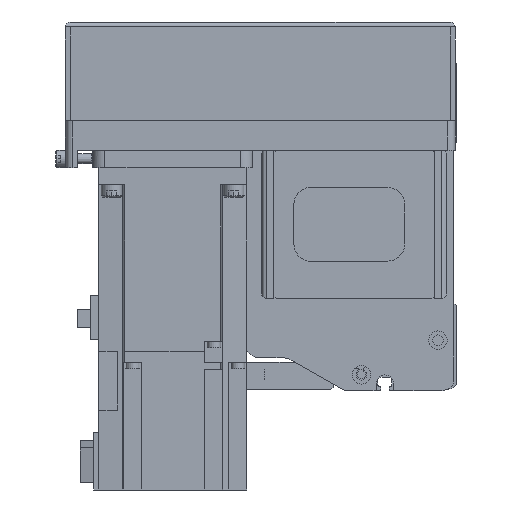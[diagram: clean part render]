
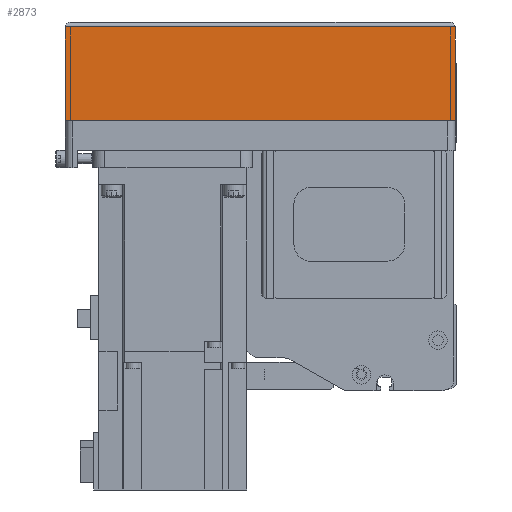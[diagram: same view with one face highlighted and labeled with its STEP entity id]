
A CAD part, left-side view. The second image highlights one B-rep face of the part: STEP entity #2873.
In plain terms, the highlighted planar face has unit normal (-1, 0, 0) as drawn and (0, 1, 0) by its records, which use the part's own axes.
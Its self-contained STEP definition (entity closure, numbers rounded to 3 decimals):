
#2873 = ADVANCED_FACE( '', ( #6179 ), #6180, .T. );
#6179 = FACE_OUTER_BOUND( '', #9745, .T. );
#6180 = PLANE( '', #9746 );
#9745 = EDGE_LOOP( '', ( #17876, #17877, #17878, #17879 ) );
#9746 = AXIS2_PLACEMENT_3D( '', #17880, #17881, #17882 );
#17876 = ORIENTED_EDGE( '', *, *, #21174, .F. );
#17877 = ORIENTED_EDGE( '', *, *, #20936, .F. );
#17878 = ORIENTED_EDGE( '', *, *, #20628, .T. );
#17879 = ORIENTED_EDGE( '', *, *, #21114, .T. );
#17880 = CARTESIAN_POINT( '', ( -158., 39., -50. ) );
#17881 = DIRECTION( '', ( 0., 1., 0. ) );
#17882 = DIRECTION( '', ( 0., 0., 1. ) );
#20628 = EDGE_CURVE( '', #24757, #24755, #24758, .T. );
#20936 = EDGE_CURVE( '', #24757, #25289, #25290, .T. );
#21114 = EDGE_CURVE( '', #24755, #25594, #25596, .T. );
#21174 = EDGE_CURVE( '', #25289, #25594, #25691, .T. );
#24755 = VERTEX_POINT( '', #30676 );
#24757 = VERTEX_POINT( '', #30679 );
#24758 = LINE( '', #30680, #30681 );
#25289 = VERTEX_POINT( '', #31423 );
#25290 = LINE( '', #31424, #31425 );
#25594 = VERTEX_POINT( '', #31905 );
#25596 = LINE( '', #31908, #31909 );
#25691 = LINE( '', #32038, #32039 );
#30676 = CARTESIAN_POINT( '', ( -158., 39., -12.1 ) );
#30679 = CARTESIAN_POINT( '', ( -158., 39., -50. ) );
#30680 = CARTESIAN_POINT( '', ( -158., 39., -50. ) );
#30681 = VECTOR( '', #38316, 1000. );
#31423 = CARTESIAN_POINT( '', ( 0., 39., -50. ) );
#31424 = CARTESIAN_POINT( '', ( -158., 39., -50. ) );
#31425 = VECTOR( '', #38736, 1000. );
#31905 = CARTESIAN_POINT( '', ( 0., 39., -12.1 ) );
#31908 = CARTESIAN_POINT( '', ( -158., 39., -12.1 ) );
#31909 = VECTOR( '', #39007, 1000. );
#32038 = CARTESIAN_POINT( '', ( 0., 39., -50. ) );
#32039 = VECTOR( '', #39072, 1000. );
#38316 = DIRECTION( '', ( 0., 0., 1. ) );
#38736 = DIRECTION( '', ( 1., 0., 0. ) );
#39007 = DIRECTION( '', ( 1., 0., 0. ) );
#39072 = DIRECTION( '', ( 0., 0., 1. ) );
